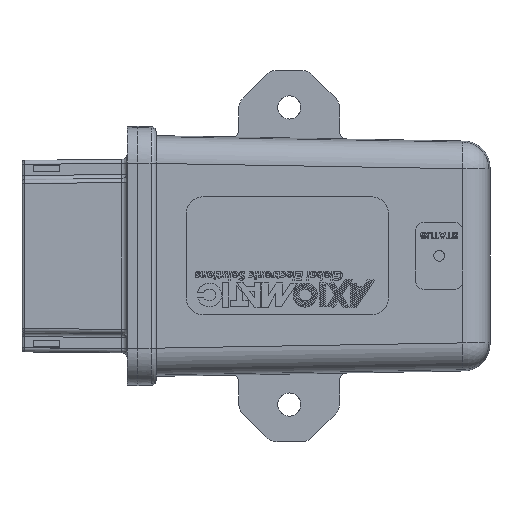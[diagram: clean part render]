
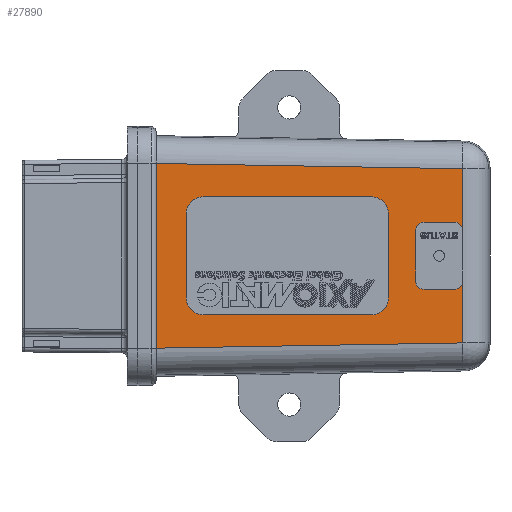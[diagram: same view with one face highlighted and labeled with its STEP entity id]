
A CAD part, top view. The second image highlights one B-rep face of the part: STEP entity #27890.
In plain terms, the highlighted planar face has unit normal (0.018, 0, 1) as drawn and (1, 0, -0.017) by its records, which use the part's own axes.
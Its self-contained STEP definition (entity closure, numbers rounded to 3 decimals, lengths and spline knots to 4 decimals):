
#3624=LINE('',#40531,#6145);
#3665=LINE('',#41817,#6186);
#3741=LINE('',#43227,#6262);
#3742=LINE('',#43228,#6263);
#6145=VECTOR('',#32313,1.2928);
#6186=VECTOR('',#32442,1.3707);
#6262=VECTOR('',#32934,2.2743);
#6263=VECTOR('',#32935,2.2743);
#8404=FACE_BOUND('',#9086,.T.);
#8405=FACE_BOUND('',#9087,.T.);
#9086=EDGE_LOOP('',(#19132));
#9087=EDGE_LOOP('',(#19133,#19134,#19135,#19136));
#10537=CIRCLE('',#29351,0.1102);
#11044=VERTEX_POINT('',#37985);
#11343=VERTEX_POINT('',#40524);
#11346=VERTEX_POINT('',#40529);
#11400=VERTEX_POINT('',#41814);
#11401=VERTEX_POINT('',#41816);
#13641=EDGE_CURVE('',#11044,#11044,#10537,.T.);
#14065=EDGE_CURVE('',#11346,#11343,#3624,.T.);
#14149=EDGE_CURVE('',#11401,#11400,#3665,.T.);
#14371=EDGE_CURVE('',#11343,#11400,#3741,.T.);
#14372=EDGE_CURVE('',#11401,#11346,#3742,.T.);
#19132=ORIENTED_EDGE('',*,*,#13641,.T.);
#19133=ORIENTED_EDGE('',*,*,#14371,.F.);
#19134=ORIENTED_EDGE('',*,*,#14065,.F.);
#19135=ORIENTED_EDGE('',*,*,#14372,.F.);
#19136=ORIENTED_EDGE('',*,*,#14149,.T.);
#25215=PLANE('',#29815);
#27890=ADVANCED_FACE('',(#8404,#8405),#25215,.T.);
#29351=AXIS2_PLACEMENT_3D('',#37986,#31659,#31660);
#29815=AXIS2_PLACEMENT_3D('',#43226,#32932,#32933);
#31659=DIRECTION('center_axis',(-1.,0.,
0.017));
#31660=DIRECTION('ref_axis',(0.017,0.,1.));
#32313=DIRECTION('',(0.,-1.,0.));
#32442=DIRECTION('',(0.,-1.,0.));
#32932=DIRECTION('center_axis',(1.,0.,
-0.017));
#32933=DIRECTION('ref_axis',(0.,-1.,0.));
#32934=DIRECTION('',(0.017,-0.017,1.));
#32935=DIRECTION('',(-0.017,-0.017,-1.));
#37985=CARTESIAN_POINT('',(0.5311,0.,-2.3476));
#37986=CARTESIAN_POINT('Origin',(0.5331,0.,
-2.2374));
#40524=CARTESIAN_POINT('',(0.53,-0.6464,-2.4114));
#40529=CARTESIAN_POINT('',(0.53,0.6464,-2.4114));
#40531=CARTESIAN_POINT('',(0.53,-0.4478,-2.4114));
#41814=CARTESIAN_POINT('',(0.5697,-0.6854,-0.1378));
#41816=CARTESIAN_POINT('',(0.5697,0.6854,-0.1378));
#41817=CARTESIAN_POINT('',(0.5697,-0.4478,-0.1378));
#43226=CARTESIAN_POINT('Origin',(0.5721,-0.8955,0.));
#43227=CARTESIAN_POINT('',(0.572,-0.6876,-0.0064));
#43228=CARTESIAN_POINT('',(0.5719,0.6875,-0.0118));
